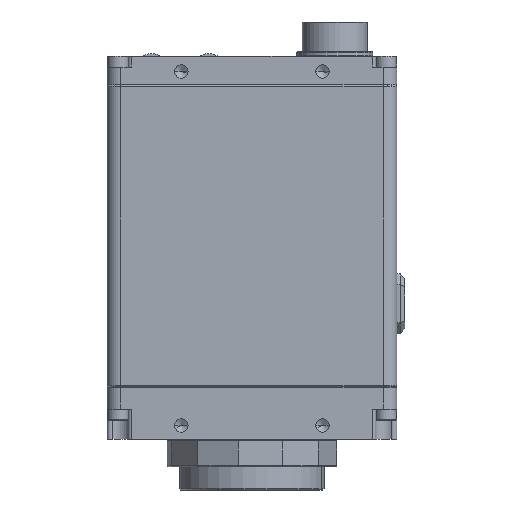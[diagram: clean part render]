
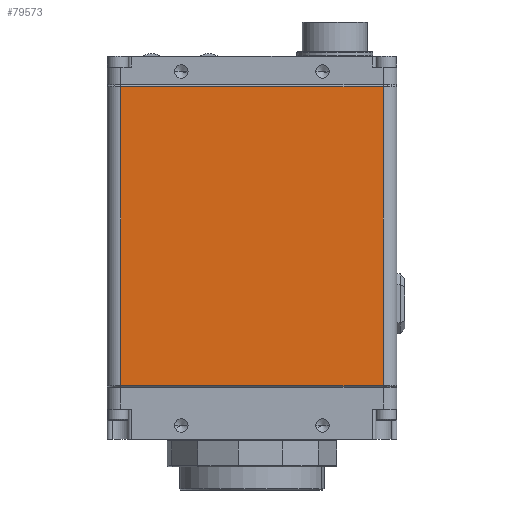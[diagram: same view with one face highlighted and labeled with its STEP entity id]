
A CAD part, front view. The second image highlights one B-rep face of the part: STEP entity #79573.
In plain terms, the highlighted planar face has unit normal (0, -1, 0) as drawn and (0, 1, 0) by its records, which use the part's own axes.
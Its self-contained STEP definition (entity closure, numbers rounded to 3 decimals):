
#3647 = FACE_OUTER_BOUND ( 'NONE', #147832, .T. ) ;
#8367 = DIRECTION ( 'NONE',  ( 0., 0., -1. ) ) ;
#9020 = CARTESIAN_POINT ( 'NONE',  ( -24.13, 16.51, 61.214 ) ) ;
#13459 = DIRECTION ( 'NONE',  ( 0., 0., 1. ) ) ;
#13714 = CARTESIAN_POINT ( 'NONE',  ( 24.13, 16.51, 61.214 ) ) ;
#16814 = CARTESIAN_POINT ( 'NONE',  ( -24.13, 16.51, 5.944 ) ) ;
#17685 = ORIENTED_EDGE ( 'NONE', *, *, #130345, .F. ) ;
#30091 = VECTOR ( 'NONE', #8367, 1000. ) ;
#30584 = VECTOR ( 'NONE', #75500, 1000. ) ;
#33343 = LINE ( 'NONE', #13714, #131326 ) ;
#49037 = CARTESIAN_POINT ( 'NONE',  ( 24.13, 16.51, 5.944 ) ) ;
#57186 = DIRECTION ( 'NONE',  ( 1., 0., 0. ) ) ;
#57393 = DIRECTION ( 'NONE',  ( 0., -1., 0. ) ) ;
#57649 = CARTESIAN_POINT ( 'NONE',  ( -26.67, 16.51, 61.214 ) ) ;
#60268 = PLANE ( 'NONE',  #180130 ) ;
#67749 = DIRECTION ( 'NONE',  ( -1., 0., 0. ) ) ;
#70014 = CARTESIAN_POINT ( 'NONE',  ( -26.67, 16.51, 60.96 ) ) ;
#75500 = DIRECTION ( 'NONE',  ( 1., 0., 0. ) ) ;
#76409 = CARTESIAN_POINT ( 'NONE',  ( -26.67, 16.51, 5.944 ) ) ;
#79573 = ADVANCED_FACE ( 'NONE', ( #3647 ), #60268, .F. ) ;
#79648 = VERTEX_POINT ( 'NONE', #49037 ) ;
#81942 = LINE ( 'NONE', #76409, #30584 ) ;
#82985 = ORIENTED_EDGE ( 'NONE', *, *, #127318, .F. ) ;
#111375 = VECTOR ( 'NONE', #67749, 1000. ) ;
#114671 = VERTEX_POINT ( 'NONE', #16814 ) ;
#124018 = ORIENTED_EDGE ( 'NONE', *, *, #126773, .F. ) ;
#126773 = EDGE_CURVE ( 'NONE', #145222, #129798, #152738, .T. ) ;
#127318 = EDGE_CURVE ( 'NONE', #129798, #114671, #193253, .T. ) ;
#129798 = VERTEX_POINT ( 'NONE', #135067 ) ;
#130345 = EDGE_CURVE ( 'NONE', #114671, #79648, #81942, .T. ) ;
#131326 = VECTOR ( 'NONE', #13459, 1000. ) ;
#132480 = EDGE_CURVE ( 'NONE', #79648, #145222, #33343, .T. ) ;
#135067 = CARTESIAN_POINT ( 'NONE',  ( -24.13, 16.51, 60.96 ) ) ;
#140968 = CARTESIAN_POINT ( 'NONE',  ( 24.13, 16.51, 60.96 ) ) ;
#145222 = VERTEX_POINT ( 'NONE', #140968 ) ;
#147832 = EDGE_LOOP ( 'NONE', ( #17685, #82985, #124018, #170529 ) ) ;
#152738 = LINE ( 'NONE', #70014, #111375 ) ;
#170529 = ORIENTED_EDGE ( 'NONE', *, *, #132480, .F. ) ;
#180130 = AXIS2_PLACEMENT_3D ( 'NONE', #57649, #57393, #57186 ) ;
#193253 = LINE ( 'NONE', #9020, #30091 ) ;
